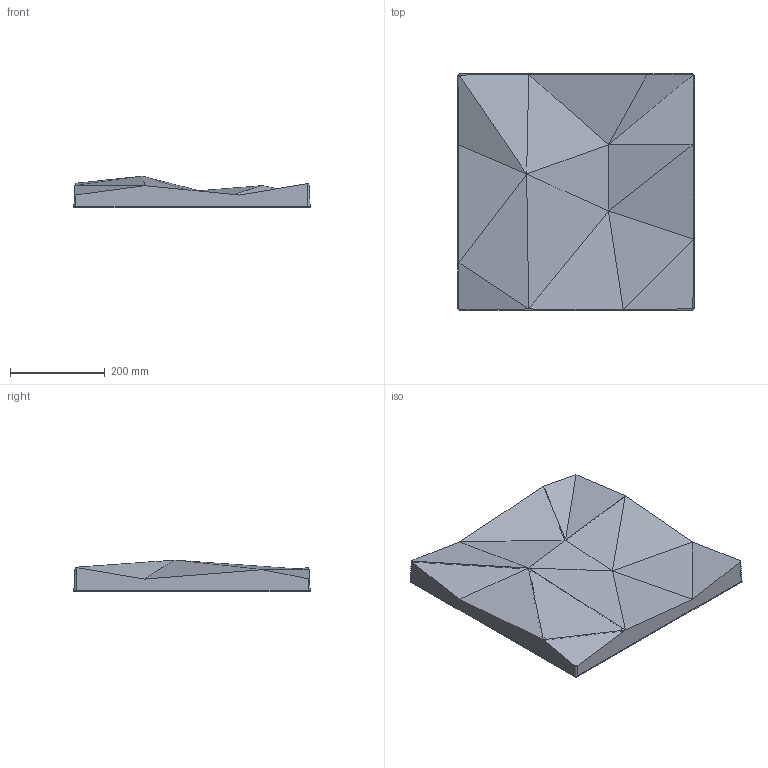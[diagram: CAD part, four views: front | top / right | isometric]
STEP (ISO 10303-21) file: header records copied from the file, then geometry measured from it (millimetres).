
FILE_DESCRIPTION (( 'STEP AP214' ), '1' );
FILE_NAME ('Fractile TILE.STEP', '2014-04-30T04:21:52', ( '' ), ( '' ), 'SwSTEP 2.0', 'SolidWorks 2009', '' );
FILE_SCHEMA (( 'AUTOMOTIVE_DESIGN' ));
Length unit declared in the file: millimetre
Products named in the file (1): Fractile TILE
Bounding box: 500.21 x 500.21 x 67 mm (x, y, z)
Volume: 1037795.7 mm3; surface area: 654328.2 mm2
Topology: 1 solids, 1 shells, 91 faces, 236 edges, 149 vertices
Faces by surface type: plane 71, cylinder 12, cone 8
Entity records: 2725 total; most frequent: CARTESIAN_POINT 615, ORIENTED_EDGE 472, DIRECTION 382, EDGE_CURVE 236, LINE 182, VECTOR 182, VERTEX_POINT 149, AXIS2_PLACEMENT_3D 100
